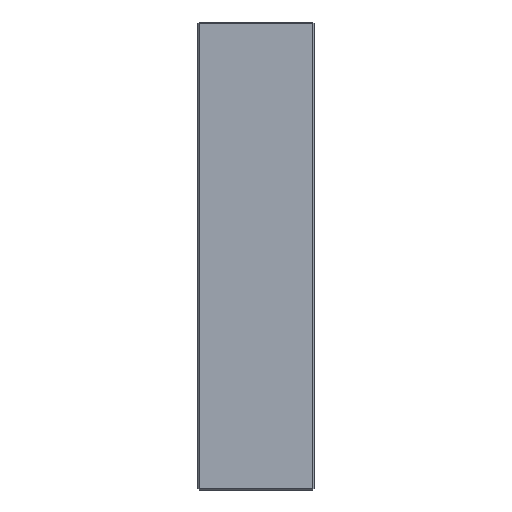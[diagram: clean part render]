
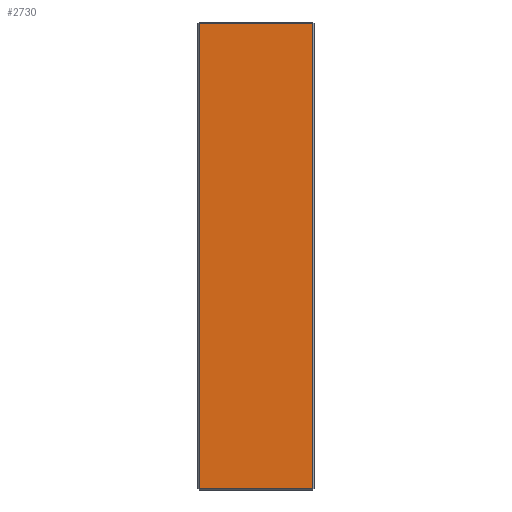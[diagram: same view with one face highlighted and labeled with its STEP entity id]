
A CAD part, left-side view. The second image highlights one B-rep face of the part: STEP entity #2730.
In plain terms, the highlighted planar face has unit normal (-1, 0, 0).
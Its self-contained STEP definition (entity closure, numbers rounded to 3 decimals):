
#1 = LINE ( 'NONE', #892, #2208 ) ;
#69 = AXIS2_PLACEMENT_3D ( 'NONE', #667, #1520, #243 ) ;
#243 = DIRECTION ( 'NONE',  ( 0., 0., -1. ) ) ;
#260 = VECTOR ( 'NONE', #2372, 1000. ) ;
#430 = CARTESIAN_POINT ( 'NONE',  ( -173., 85., -172. ) ) ;
#473 = VERTEX_POINT ( 'NONE', #2327 ) ;
#587 = VERTEX_POINT ( 'NONE', #430 ) ;
#667 = CARTESIAN_POINT ( 'NONE',  ( -173., 86., 173. ) ) ;
#669 = VERTEX_POINT ( 'NONE', #2410 ) ;
#672 = VECTOR ( 'NONE', #976, 1000. ) ;
#733 = EDGE_CURVE ( 'NONE', #473, #587, #2628, .T. ) ;
#892 = CARTESIAN_POINT ( 'NONE',  ( -173., 86., -172. ) ) ;
#910 = VECTOR ( 'NONE', #1774, 1000. ) ;
#976 = DIRECTION ( 'NONE',  ( 0., 1., 0. ) ) ;
#1260 = FACE_OUTER_BOUND ( 'NONE', #2321, .T. ) ;
#1305 = PLANE ( 'NONE',  #69 ) ;
#1336 = CARTESIAN_POINT ( 'NONE',  ( -173., 85., 173. ) ) ;
#1441 = CARTESIAN_POINT ( 'NONE',  ( -173., 1., -172. ) ) ;
#1463 = ORIENTED_EDGE ( 'NONE', *, *, #2441, .T. ) ;
#1520 = DIRECTION ( 'NONE',  ( 1., 0., 0. ) ) ;
#1569 = ORIENTED_EDGE ( 'NONE', *, *, #733, .T. ) ;
#1688 = VERTEX_POINT ( 'NONE', #1441 ) ;
#1773 = ORIENTED_EDGE ( 'NONE', *, *, #2709, .T. ) ;
#1774 = DIRECTION ( 'NONE',  ( 0., 0., -1. ) ) ;
#1803 = LINE ( 'NONE', #2068, #672 ) ;
#1900 = LINE ( 'NONE', #2572, #260 ) ;
#2046 = ORIENTED_EDGE ( 'NONE', *, *, #2757, .T. ) ;
#2068 = CARTESIAN_POINT ( 'NONE',  ( -173., 86., 172. ) ) ;
#2208 = VECTOR ( 'NONE', #2405, 1000. ) ;
#2321 = EDGE_LOOP ( 'NONE', ( #1463, #1569, #2046, #1773 ) ) ;
#2327 = CARTESIAN_POINT ( 'NONE',  ( -173., 85., 172. ) ) ;
#2372 = DIRECTION ( 'NONE',  ( 0., 0., 1. ) ) ;
#2405 = DIRECTION ( 'NONE',  ( 0., -1., 0. ) ) ;
#2410 = CARTESIAN_POINT ( 'NONE',  ( -173., 1., 172. ) ) ;
#2441 = EDGE_CURVE ( 'NONE', #669, #473, #1803, .T. ) ;
#2572 = CARTESIAN_POINT ( 'NONE',  ( -173., 1., 173. ) ) ;
#2628 = LINE ( 'NONE', #1336, #910 ) ;
#2709 = EDGE_CURVE ( 'NONE', #1688, #669, #1900, .T. ) ;
#2730 = ADVANCED_FACE ( 'NONE', ( #1260 ), #1305, .F. ) ;
#2757 = EDGE_CURVE ( 'NONE', #587, #1688, #1, .T. ) ;
